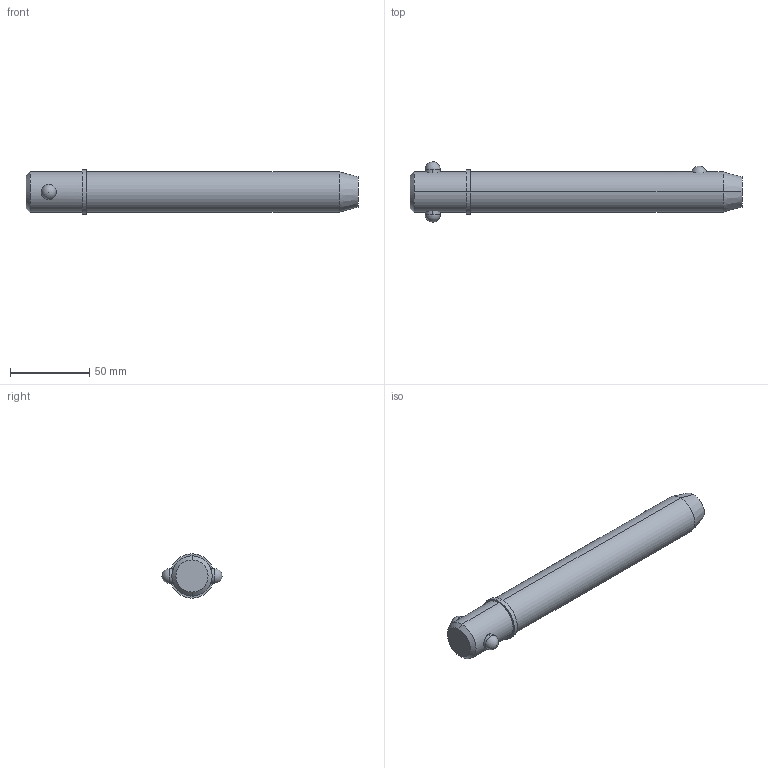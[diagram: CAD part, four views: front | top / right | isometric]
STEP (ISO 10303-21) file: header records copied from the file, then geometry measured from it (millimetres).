
FILE_DESCRIPTION (( 'STEP AP203' ), '1' );
FILE_NAME ('33018.W1055.step', '2024-11-19T17:25:02', ( '' ), ( '' ), 'SwSTEP 2.0', 'SolidWorks 2019', '' );
FILE_SCHEMA (( 'CONFIG_CONTROL_DESIGN' ));
Length unit declared in the file: millimetre
Products named in the file (3): 33018.W1055; Part1_33018.W1055; Part2_33018.W1055
Assembly tree (2 placements, depth 2):
  33018.W1055
    Part1_33018.W1055
    Part2_33018.W1055
Bounding box: 209.55 x 38.1 x 27.94 mm (x, y, z)
Volume: 105706 mm3; surface area: 19306.6 mm2
Topology: 2 solids, 2 shells, 22 faces, 47 edges, 30 vertices
Faces by surface type: cylinder 10, sphere 4, cone 4, plane 4
Entity records: 1071 total; most frequent: CARTESIAN_POINT 314, DIRECTION 110, ORIENTED_EDGE 82, AXIS2_PLACEMENT_3D 48, EDGE_CURVE 41, EDGE_LOOP 27, VERTEX_POINT 26, PERSON_AND_ORGANIZATION 26
